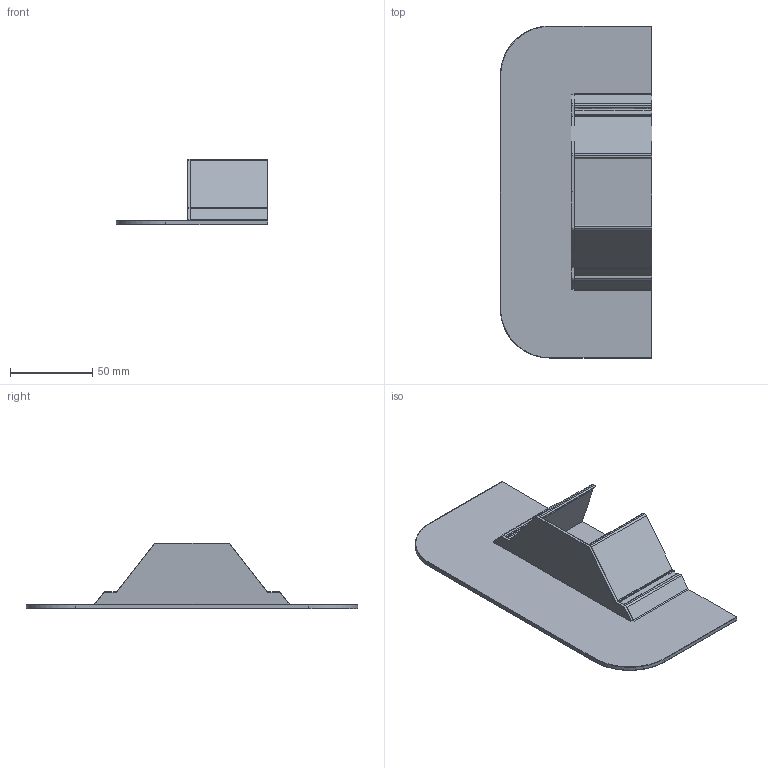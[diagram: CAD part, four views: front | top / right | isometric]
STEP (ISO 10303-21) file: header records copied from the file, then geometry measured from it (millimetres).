
FILE_DESCRIPTION(/* description */ (''),/* implementation_level */ '2;1');
FILE_NAME(/* name */ '1UJYZV~M',/* time_stamp */ '2026-03-05T15:26:10+01:00',/* author */ (''),/* organization */ (''),/* preprocessor_version */ 'ST-DEVELOPER v16.5',/* originating_system */ '',/* authorisation */ '');
FILE_SCHEMA (('AUTOMOTIVE_DESIGN'));
Length unit declared in the file: millimetre
Products named in the file (1): Document
Bounding box: 92 x 202 x 40 mm (x, y, z)
Volume: 105976.8 mm3; surface area: 51694.3 mm2
Topology: 1 solids, 1 shells, 141 faces, 378 edges, 234 vertices
Faces by surface type: bspline 141
Entity records: 8349 total; most frequent: CARTESIAN_POINT 3786, B_SPLINE_CURVE_WITH_KNOTS 801, ORIENTED_EDGE 756, PCURVE 756, DEFINITIONAL_REPRESENTATION 756, SURFACE_CURVE 378, EDGE_CURVE 378, VERTEX_POINT 234
